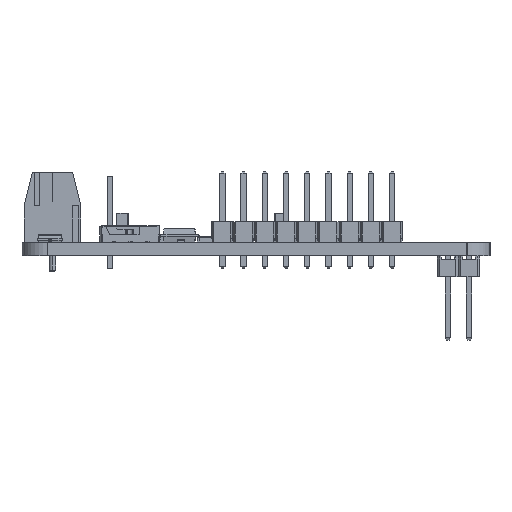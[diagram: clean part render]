
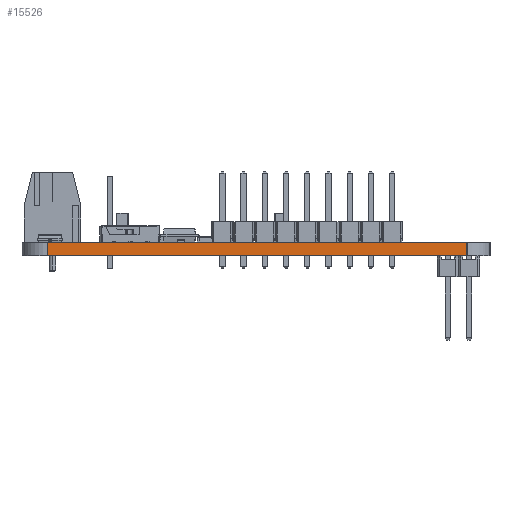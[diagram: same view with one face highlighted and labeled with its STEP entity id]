
A CAD part, left-side view. The second image highlights one B-rep face of the part: STEP entity #15526.
In plain terms, the highlighted planar face has unit normal (-1, 0, 0).
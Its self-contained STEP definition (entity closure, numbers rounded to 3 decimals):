
#13156=PLANE('',#75383);
#15526=ADVANCED_FACE('',(#19880),#13156,.T.);
#19880=FACE_OUTER_BOUND('',#23455,.T.);
#23455=EDGE_LOOP('',(#28790,#28791,#28792,#28793));
#28790=ORIENTED_EDGE('',*,*,#52873,.T.);
#28791=ORIENTED_EDGE('',*,*,#52875,.T.);
#28792=ORIENTED_EDGE('',*,*,#52876,.F.);
#28793=ORIENTED_EDGE('',*,*,#52877,.T.);
#47058=VERTEX_POINT('',#95177);
#47059=VERTEX_POINT('',#95179);
#47060=VERTEX_POINT('',#95183);
#47061=VERTEX_POINT('',#95185);
#52873=EDGE_CURVE('',#47059,#47058,#62006,.T.);
#52875=EDGE_CURVE('',#47058,#47060,#62007,.T.);
#52876=EDGE_CURVE('',#47061,#47060,#62008,.T.);
#52877=EDGE_CURVE('',#47061,#47059,#62009,.T.);
#62006=LINE('',#95178,#68692);
#62007=LINE('',#95182,#68693);
#62008=LINE('',#95184,#68694);
#62009=LINE('',#95186,#68695);
#68692=VECTOR('',#79756,1.);
#68693=VECTOR('',#79761,1.);
#68694=VECTOR('',#79762,1.);
#68695=VECTOR('',#79763,1.);
#75383=AXIS2_PLACEMENT_3D('',#95187,#79764,#79765);
#79756=DIRECTION('',(0.,0.,1.));
#79761=DIRECTION('',(0.,1.,0.));
#79762=DIRECTION('',(0.,0.,1.));
#79763=DIRECTION('',(0.,-1.,0.));
#79764=DIRECTION('',(-1.,0.,0.));
#79765=DIRECTION('',(0.,-1.,0.));
#95177=CARTESIAN_POINT('',(-0.077,2.54,0.411));
#95178=CARTESIAN_POINT('',(-0.077,2.54,0.));
#95179=CARTESIAN_POINT('',(-0.077,2.54,-1.189));
#95182=CARTESIAN_POINT('',(-0.077,2.54,0.411));
#95183=CARTESIAN_POINT('',(-0.077,52.692,0.411));
#95184=CARTESIAN_POINT('',(-0.077,52.692,0.));
#95185=CARTESIAN_POINT('',(-0.077,52.692,-1.189));
#95186=CARTESIAN_POINT('',(-0.077,53.,-1.189));
#95187=CARTESIAN_POINT('',(-0.077,2.54,0.));
